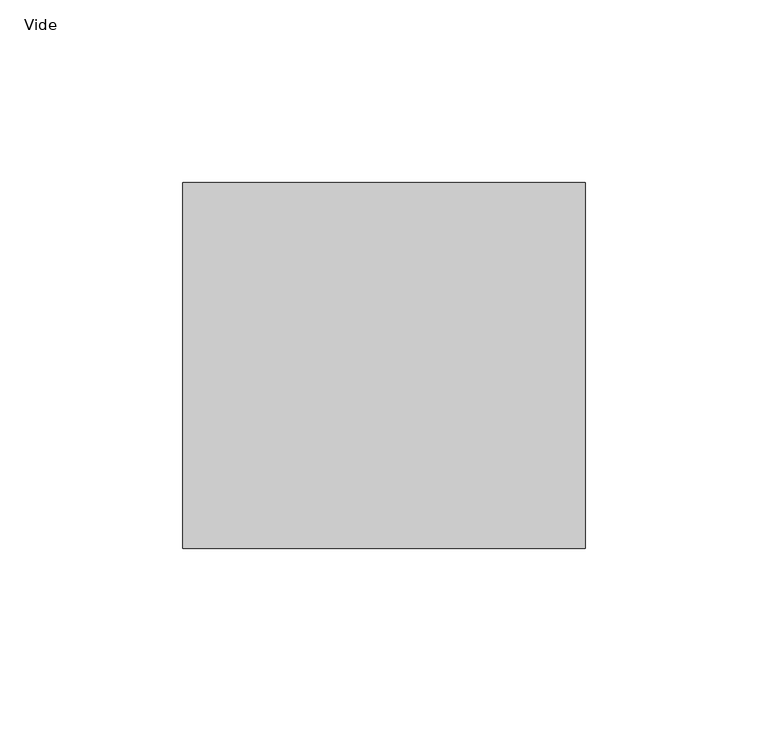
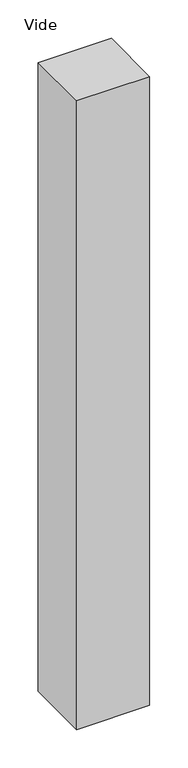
"""IFC4 building model written with IfcOpenShell, lengths in millimetres: plate geometry, Panneau système vide : Vide."""

from ifc_helpers import new_model, si_unit, origin, origin_with_axes, place, context, project, spatial, polyline, outline, extrude, source, transform, mapped, element, save


def vide_a515af11(model_context):
    return source(origin(), model_context, "Body", "SweptSolid", [
        extrude(outline(polyline([(55.0000002, 50.0), (-55.0000002, 50.0), (-55.0000002, 150.0), (55.0000002, 150.0), (55.0000002, 50.0)])), origin_with_axes(), (0.0, 0.0, 1.0), 1000.0),
    ])


if __name__ == "__main__":
    model = new_model("IFC4")
    model_context = context("Model", 3, world=origin())
    ifc_project = project(units=[si_unit("LENGTHUNIT", "METRE", prefix="MILLI")], contexts=[model_context])
    site = spatial("IfcSite", under=ifc_project)
    building = spatial("IfcBuilding", under=site)
    placement = place(None, origin())
    vide_shape = vide_a515af11(model_context)
    element("IfcPlate", 1, ObjectType="Panneau système vide : Vide", at=placement, inside=building, context=model_context, shape_type="MappedRepresentation", body=[
        mapped(vide_shape, transform((0.0, 0.0, 0.0), x_axis=(1.0, 0.0, 0.0), y_axis=(0.0, 1.0, 0.0), z_axis=(0.0, 0.0, 1.0))),
    ])
    save(model, "model.ifc")
